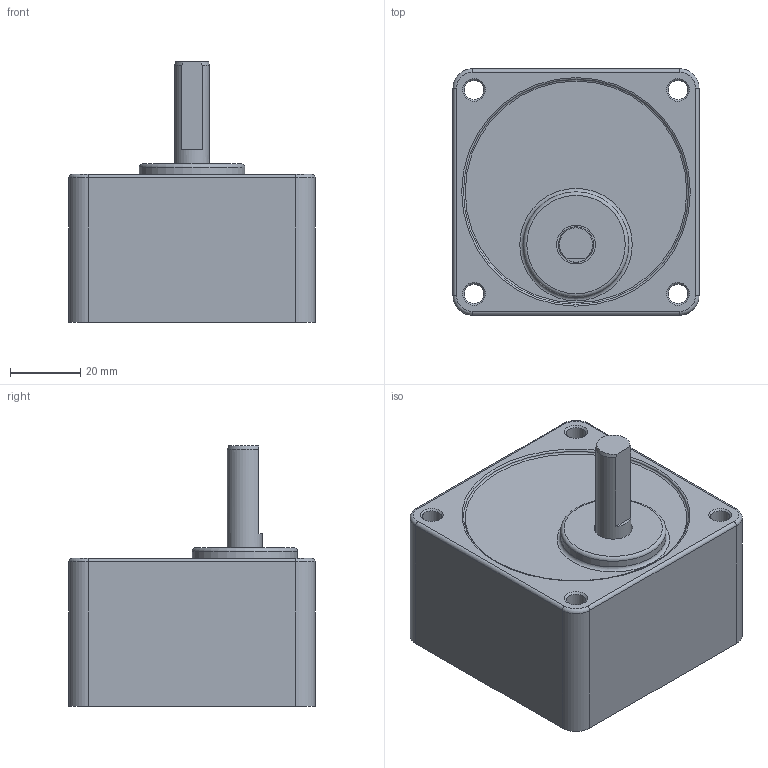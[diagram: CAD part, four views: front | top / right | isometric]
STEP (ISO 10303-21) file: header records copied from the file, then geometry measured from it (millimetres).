
FILE_DESCRIPTION((''),'2;1');
FILE_NAME('\\Spgrnd02\고객배포용도면\3D\01 Standard AC Motor\01 INDUCTION MOTOR\S7I15+S7KA\S7DA20~200.stp','2015-03-24T16:19:40',('smkim'),(''),'Autodesk Inventor 2012','Autodesk Inventor 2012','');
FILE_SCHEMA(('AUTOMOTIVE_DESIGN { 1 0 10303 214 1 1 1 1 }'));
Length unit declared in the file: millimetre
Products named in the file (1): S7DA20~200
Bounding box: 70 x 70 x 74 mm (x, y, z)
Volume: 185744.5 mm3; surface area: 26570.4 mm2
Topology: 1 solids, 1 shells, 44 faces, 93 edges, 57 vertices
Faces by surface type: cylinder 17, plane 14, torus 8, cone 5
Full cylindrical faces by diameter (mm): 5.5 x4, 7 x1, 10 x1, 11 x1, 30 x1, 64 x1
Entity records: 1139 total; most frequent: DIRECTION 212, CARTESIAN_POINT 180, ORIENTED_EDGE 150, AXIS2_PLACEMENT_3D 94, EDGE_CURVE 75, EDGE_LOOP 75, VERTEX_POINT 56, CIRCLE 49
